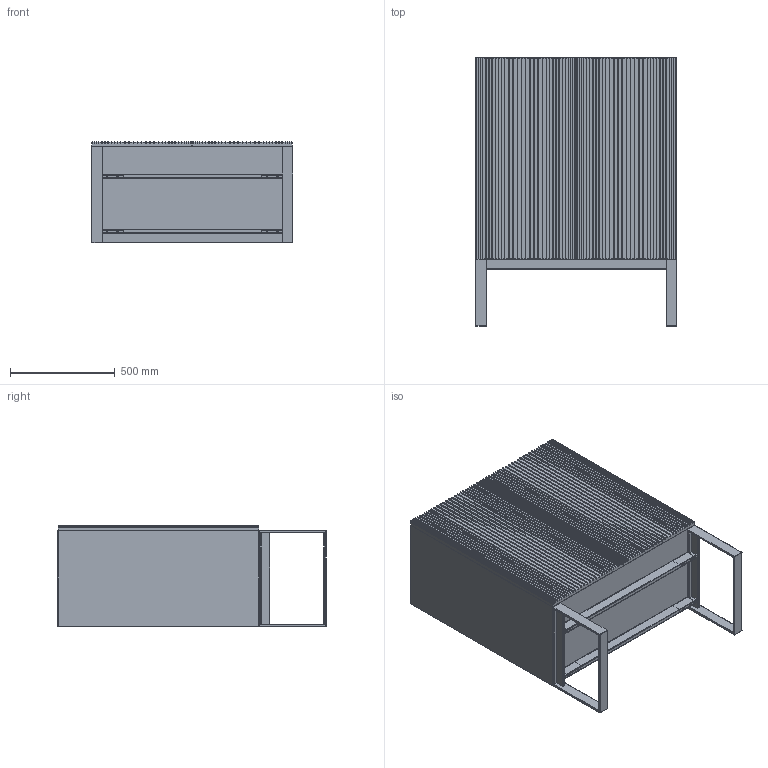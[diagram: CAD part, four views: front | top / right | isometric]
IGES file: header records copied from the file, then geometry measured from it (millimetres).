
Start section: SolidWorks IGES file using analytic representation for surfaces
Global section: file name: C:\Users\serena.trevisiol\Desktop\Nuova cartella\CARLOS cm 96X49X128H.IGS; native system: SolidWorks 2016; preprocessor: SolidWorks 2016; author: serena.trevisiol; date: 160609.091244; units: millimetre
Bounding box: 962 x 1280 x 484 mm (x, y, z)
Surface area: 12139437.4 mm2 (no closed solid volume)
Topology: 0 solids, 0 shells, 852 faces, 5424 edges, 5416 vertices
Faces by surface type: bspline 772, revolution 80
